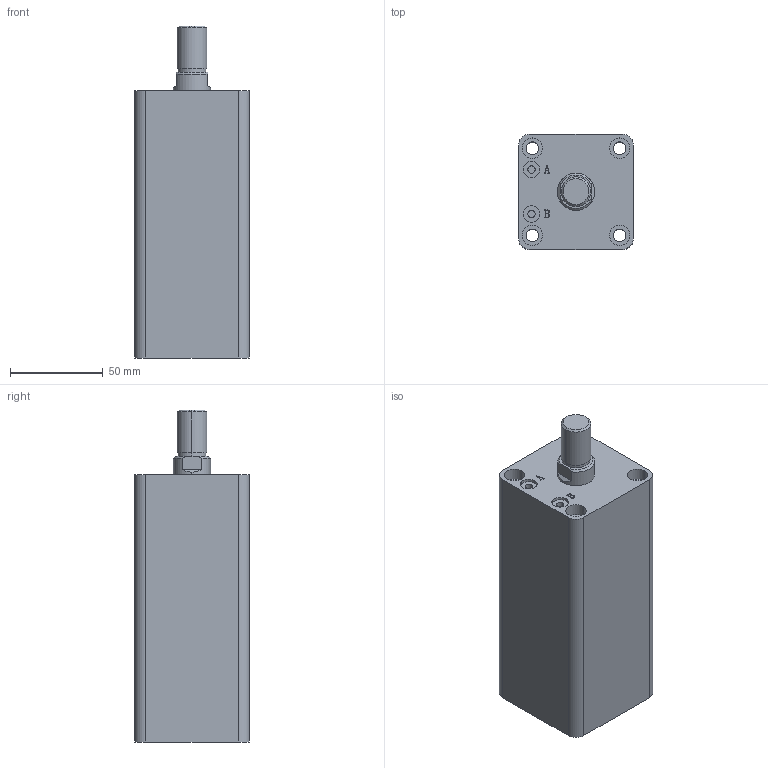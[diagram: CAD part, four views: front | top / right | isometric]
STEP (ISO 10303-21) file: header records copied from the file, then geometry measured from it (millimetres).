
FILE_DESCRIPTION (( 'STEP AP203' ), '1' );
FILE_NAME ('HTB-SDMA32-90W.STEP', '2019-10-07T11:45:23', ( '微软用户' ), ( '微软中国' ), 'SwSTEP 2.0', 'SolidWorks 2012', '' );
FILE_SCHEMA (( 'CONFIG_CONTROL_DESIGN' ));
Length unit declared in the file: millimetre
Products named in the file (3): HTB-SDMA32-90W; HTB-SDMA32-90W活塞杆; HTB-SDMA32-90掛极
Assembly tree (2 placements, depth 2):
  HTB-SDMA32-90W
    HTB-SDMA32-90掛极
    HTB-SDMA32-90W活塞杆
Bounding box: 62 x 62 x 179 mm (x, y, z)
Volume: 488442.6 mm3; surface area: 80937.7 mm2
Topology: 2 solids, 2 shells, 141 faces, 337 edges, 222 vertices
Faces by surface type: plane 67, cylinder 48, bspline 16, torus 6, cone 4
Entity records: 5176 total; most frequent: CARTESIAN_POINT 1593, ORIENTED_EDGE 674, DIRECTION 669, EDGE_CURVE 337, AXIS2_PLACEMENT_3D 242, VERTEX_POINT 222, LINE 185, VECTOR 185
